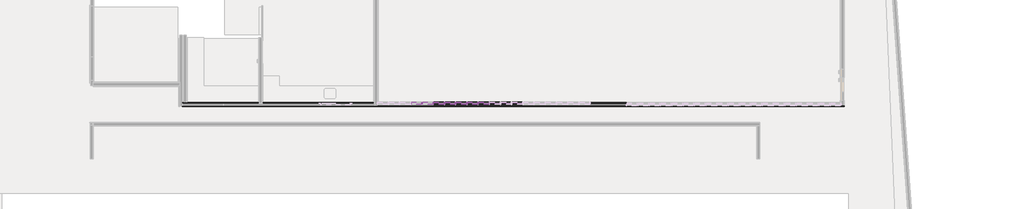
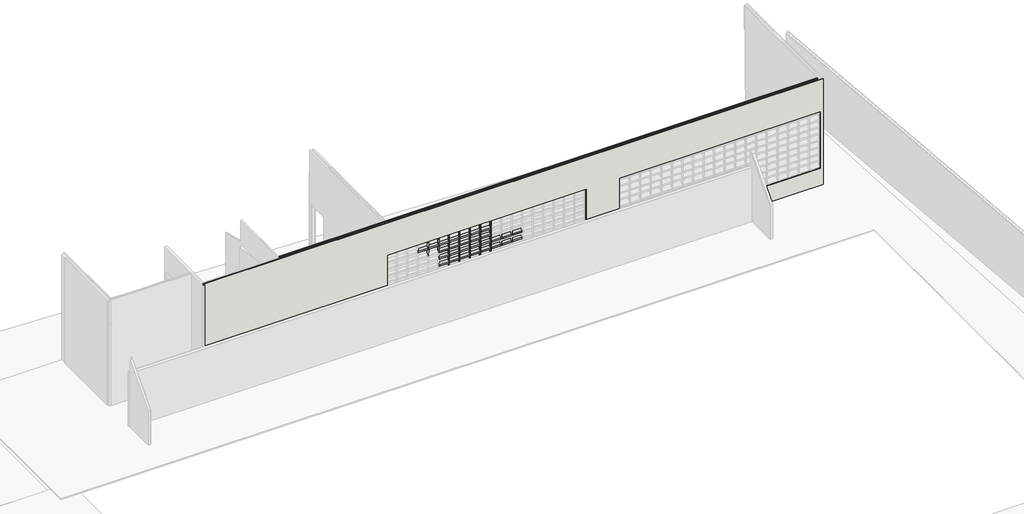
# One storey, part 22 of 28: 127 members, 2 walls.
"""IFC4 building model written with IfcOpenShell, lengths in millimetres."""

from ifc_helpers import new_model, si_unit, origin, place, context, project, spatial, faceted_brep, transform, mapped, element, save
from components import montante_retangular_02d07947, montante_retangular_70ba8f4d, montante_retangular_ace9eee9, montante_retangular_289212d8, montante_retangular_16e63d6c

model = new_model("IFC4")

# Units and contexts
model_context = context("Model", 3, world=origin())
ifc_project = project(units=[si_unit("LENGTHUNIT", "METRE", prefix="MILLI")], contexts=[model_context])

# Site, building, storey
site = spatial("IfcSite", under=ifc_project)
building = spatial("IfcBuilding", under=site)
storey = spatial("IfcBuildingStorey", under=building, Name="Térreo", Elevation=0.0)

# Members
placement = place(None, origin())
montante_retangular_shape = montante_retangular_02d07947(model_context)
element("IfcMember", 1, ObjectType="Montante retangular : FDE_MontanteVenezianaIndustrial_Intermediário_Ref50 (Alumínio Anodizado)", at=placement, inside=storey, context=model_context, shape_type="MappedRepresentation", body=[
    mapped(montante_retangular_shape, transform((-42832.6315788, 48589.0879102, 925.0), x_axis=(1.0, 0.0, 0.0), y_axis=(0.0, -1.0, 0.0), z_axis=(0.0, 0.0, -1.0))),
])
element("IfcMember", 2, ObjectType="Montante retangular : FDE_MontanteVenezianaIndustrial_Intermediário_Ref50 (Alumínio Anodizado)", at=placement, inside=storey, context=model_context, shape_type="MappedRepresentation", body=[
    mapped(montante_retangular_shape, transform((-42429.736842, 48589.0879102, 925.0), x_axis=(1.0, 0.0, 0.0), y_axis=(0.0, -1.0, 0.0), z_axis=(0.0, 0.0, -1.0))),
])
element("IfcMember", 3, ObjectType="Montante retangular : FDE_MontanteVenezianaIndustrial_Intermediário_Ref50 (Alumínio Anodizado)", at=placement, inside=storey, context=model_context, shape_type="MappedRepresentation", body=[
    mapped(montante_retangular_shape, transform((-42026.8421052, 48589.0879102, 925.0), x_axis=(1.0, 0.0, 0.0), y_axis=(0.0, -1.0, 0.0), z_axis=(0.0, 0.0, -1.0))),
])
element("IfcMember", 4, ObjectType="Montante retangular : FDE_MontanteVenezianaIndustrial_Intermediário_Ref50 (Alumínio Anodizado)", at=placement, inside=storey, context=model_context, shape_type="MappedRepresentation", body=[
    mapped(montante_retangular_shape, transform((-41623.9473684, 48589.0879102, 925.0), x_axis=(1.0, 0.0, 0.0), y_axis=(0.0, -1.0, 0.0), z_axis=(0.0, 0.0, -1.0))),
])
element("IfcMember", 5, ObjectType="Montante retangular : FDE_MontanteVenezianaIndustrial_Intermediário_Ref50 (Alumínio Anodizado)", at=placement, inside=storey, context=model_context, shape_type="MappedRepresentation", body=[
    mapped(montante_retangular_shape, transform((-41221.0526316, 48589.0879102, 925.0), x_axis=(1.0, 0.0, 0.0), y_axis=(0.0, -1.0, 0.0), z_axis=(0.0, 0.0, -1.0))),
])
montante_retangular_2_shape = montante_retangular_70ba8f4d(model_context)
element("IfcMember", 6, ObjectType="Montante retangular : FDE_MontanteVenezianaIndustrial_Intermediário_Ref50 (Alumínio Anodizado)", at=placement, inside=storey, context=model_context, shape_type="MappedRepresentation", body=[
    mapped(montante_retangular_2_shape, transform((-42832.6315788, 48589.0879102, 1174.0), x_axis=(1.0, 0.0, 0.0), y_axis=(0.0, -1.0, 0.0), z_axis=(0.0, 0.0, -1.0))),
])
element("IfcMember", 7, ObjectType="Montante retangular : FDE_MontanteVenezianaIndustrial_Intermediário_Ref50 (Alumínio Anodizado)", at=placement, inside=storey, context=model_context, shape_type="MappedRepresentation", body=[
    mapped(montante_retangular_2_shape, transform((-42429.736842, 48589.0879102, 1174.0), x_axis=(1.0, 0.0, 0.0), y_axis=(0.0, -1.0, 0.0), z_axis=(0.0, 0.0, -1.0))),
])
element("IfcMember", 8, ObjectType="Montante retangular : FDE_MontanteVenezianaIndustrial_Intermediário_Ref50 (Alumínio Anodizado)", at=placement, inside=storey, context=model_context, shape_type="MappedRepresentation", body=[
    mapped(montante_retangular_2_shape, transform((-42026.8421052, 48589.0879102, 1174.0), x_axis=(1.0, 0.0, 0.0), y_axis=(0.0, -1.0, 0.0), z_axis=(0.0, 0.0, -1.0))),
])
element("IfcMember", 9, ObjectType="Montante retangular : FDE_MontanteVenezianaIndustrial_Intermediário_Ref50 (Alumínio Anodizado)", at=placement, inside=storey, context=model_context, shape_type="MappedRepresentation", body=[
    mapped(montante_retangular_2_shape, transform((-41623.9473684, 48589.0879102, 1174.0), x_axis=(1.0, 0.0, 0.0), y_axis=(0.0, -1.0, 0.0), z_axis=(0.0, 0.0, -1.0))),
])
element("IfcMember", 10, ObjectType="Montante retangular : FDE_MontanteVenezianaIndustrial_Intermediário_Ref50 (Alumínio Anodizado)", at=placement, inside=storey, context=model_context, shape_type="MappedRepresentation", body=[
    mapped(montante_retangular_2_shape, transform((-41221.0526316, 48589.0879102, 1174.0), x_axis=(1.0, 0.0, 0.0), y_axis=(0.0, -1.0, 0.0), z_axis=(0.0, 0.0, -1.0))),
])
element("IfcMember", 11, ObjectType="Montante retangular : FDE_MontanteVenezianaIndustrial_Intermediário_Ref50 (Alumínio Anodizado)", at=placement, inside=storey, context=model_context, shape_type="MappedRepresentation", body=[
    mapped(montante_retangular_2_shape, transform((-42832.6315788, 48589.0879102, 1448.0), x_axis=(1.0, 0.0, 0.0), y_axis=(0.0, -1.0, 0.0), z_axis=(0.0, 0.0, -1.0))),
])
element("IfcMember", 12, ObjectType="Montante retangular : FDE_MontanteVenezianaIndustrial_Intermediário_Ref50 (Alumínio Anodizado)", at=placement, inside=storey, context=model_context, shape_type="MappedRepresentation", body=[
    mapped(montante_retangular_2_shape, transform((-42429.736842, 48589.0879102, 1448.0), x_axis=(1.0, 0.0, 0.0), y_axis=(0.0, -1.0, 0.0), z_axis=(0.0, 0.0, -1.0))),
])
element("IfcMember", 13, ObjectType="Montante retangular : FDE_MontanteVenezianaIndustrial_Intermediário_Ref50 (Alumínio Anodizado)", at=placement, inside=storey, context=model_context, shape_type="MappedRepresentation", body=[
    mapped(montante_retangular_2_shape, transform((-42026.8421052, 48589.0879102, 1448.0), x_axis=(1.0, 0.0, 0.0), y_axis=(0.0, -1.0, 0.0), z_axis=(0.0, 0.0, -1.0))),
])
element("IfcMember", 14, ObjectType="Montante retangular : FDE_MontanteVenezianaIndustrial_Intermediário_Ref50 (Alumínio Anodizado)", at=placement, inside=storey, context=model_context, shape_type="MappedRepresentation", body=[
    mapped(montante_retangular_2_shape, transform((-41623.9473684, 48589.0879102, 1448.0), x_axis=(1.0, 0.0, 0.0), y_axis=(0.0, -1.0, 0.0), z_axis=(0.0, 0.0, -1.0))),
])
element("IfcMember", 15, ObjectType="Montante retangular : FDE_MontanteVenezianaIndustrial_Intermediário_Ref50 (Alumínio Anodizado)", at=placement, inside=storey, context=model_context, shape_type="MappedRepresentation", body=[
    mapped(montante_retangular_2_shape, transform((-41221.0526316, 48589.0879102, 1448.0), x_axis=(1.0, 0.0, 0.0), y_axis=(0.0, -1.0, 0.0), z_axis=(0.0, 0.0, -1.0))),
])
element("IfcMember", 16, ObjectType="Montante retangular : FDE_MontanteVenezianaIndustrial_Intermediário_Ref50 (Alumínio Anodizado)", at=placement, inside=storey, context=model_context, shape_type="MappedRepresentation", body=[
    mapped(montante_retangular_2_shape, transform((-42832.6315788, 48589.0879102, 1722.0), x_axis=(1.0, 0.0, 0.0), y_axis=(0.0, -1.0, 0.0), z_axis=(0.0, 0.0, -1.0))),
])
element("IfcMember", 17, ObjectType="Montante retangular : FDE_MontanteVenezianaIndustrial_Intermediário_Ref50 (Alumínio Anodizado)", at=placement, inside=storey, context=model_context, shape_type="MappedRepresentation", body=[
    mapped(montante_retangular_2_shape, transform((-42429.736842, 48589.0879102, 1722.0), x_axis=(1.0, 0.0, 0.0), y_axis=(0.0, -1.0, 0.0), z_axis=(0.0, 0.0, -1.0))),
])
element("IfcMember", 18, ObjectType="Montante retangular : FDE_MontanteVenezianaIndustrial_Intermediário_Ref50 (Alumínio Anodizado)", at=placement, inside=storey, context=model_context, shape_type="MappedRepresentation", body=[
    mapped(montante_retangular_2_shape, transform((-42026.8421052, 48589.0879102, 1722.0), x_axis=(1.0, 0.0, 0.0), y_axis=(0.0, -1.0, 0.0), z_axis=(0.0, 0.0, -1.0))),
])
element("IfcMember", 19, ObjectType="Montante retangular : FDE_MontanteVenezianaIndustrial_Intermediário_Ref50 (Alumínio Anodizado)", at=placement, inside=storey, context=model_context, shape_type="MappedRepresentation", body=[
    mapped(montante_retangular_2_shape, transform((-41623.9473684, 48589.0879102, 1722.0), x_axis=(1.0, 0.0, 0.0), y_axis=(0.0, -1.0, 0.0), z_axis=(0.0, 0.0, -1.0))),
])
element("IfcMember", 20, ObjectType="Montante retangular : FDE_MontanteVenezianaIndustrial_Intermediário_Ref50 (Alumínio Anodizado)", at=placement, inside=storey, context=model_context, shape_type="MappedRepresentation", body=[
    mapped(montante_retangular_2_shape, transform((-41221.0526316, 48589.0879102, 1722.0), x_axis=(1.0, 0.0, 0.0), y_axis=(0.0, -1.0, 0.0), z_axis=(0.0, 0.0, -1.0))),
])
element("IfcMember", 21, ObjectType="Montante retangular : FDE_MontanteVenezianaIndustrial_Intermediário_Ref50 (Alumínio Anodizado)", at=placement, inside=storey, context=model_context, shape_type="MappedRepresentation", body=[
    mapped(montante_retangular_2_shape, transform((-42832.6315788, 48589.0879102, 1996.0), x_axis=(1.0, 0.0, 0.0), y_axis=(0.0, -1.0, 0.0), z_axis=(0.0, 0.0, -1.0))),
])
element("IfcMember", 22, ObjectType="Montante retangular : FDE_MontanteVenezianaIndustrial_Intermediário_Ref50 (Alumínio Anodizado)", at=placement, inside=storey, context=model_context, shape_type="MappedRepresentation", body=[
    mapped(montante_retangular_2_shape, transform((-42429.736842, 48589.0879102, 1996.0), x_axis=(1.0, 0.0, 0.0), y_axis=(0.0, -1.0, 0.0), z_axis=(0.0, 0.0, -1.0))),
])
element("IfcMember", 23, ObjectType="Montante retangular : FDE_MontanteVenezianaIndustrial_Intermediário_Ref50 (Alumínio Anodizado)", at=placement, inside=storey, context=model_context, shape_type="MappedRepresentation", body=[
    mapped(montante_retangular_2_shape, transform((-42026.8421052, 48589.0879102, 1996.0), x_axis=(1.0, 0.0, 0.0), y_axis=(0.0, -1.0, 0.0), z_axis=(0.0, 0.0, -1.0))),
])
element("IfcMember", 24, ObjectType="Montante retangular : FDE_MontanteVenezianaIndustrial_Intermediário_Ref50 (Alumínio Anodizado)", at=placement, inside=storey, context=model_context, shape_type="MappedRepresentation", body=[
    mapped(montante_retangular_2_shape, transform((-41623.9473684, 48589.0879102, 1996.0), x_axis=(1.0, 0.0, 0.0), y_axis=(0.0, -1.0, 0.0), z_axis=(0.0, 0.0, -1.0))),
])
element("IfcMember", 25, ObjectType="Montante retangular : FDE_MontanteVenezianaIndustrial_Intermediário_Ref50 (Alumínio Anodizado)", at=placement, inside=storey, context=model_context, shape_type="MappedRepresentation", body=[
    mapped(montante_retangular_2_shape, transform((-41221.0526316, 48589.0879102, 1996.0), x_axis=(1.0, 0.0, 0.0), y_axis=(0.0, -1.0, 0.0), z_axis=(0.0, 0.0, -1.0))),
])
element("IfcMember", 26, ObjectType="Montante retangular : FDE_MontanteVenezianaIndustrial_Intermediário_Ref50 (Alumínio Anodizado)", at=placement, inside=storey, context=model_context, shape_type="MappedRepresentation", body=[
    mapped(montante_retangular_2_shape, transform((-42832.6315788, 48589.0879102, 2270.0), x_axis=(1.0, 0.0, 0.0), y_axis=(0.0, -1.0, 0.0), z_axis=(0.0, 0.0, -1.0))),
])
element("IfcMember", 27, ObjectType="Montante retangular : FDE_MontanteVenezianaIndustrial_Intermediário_Ref50 (Alumínio Anodizado)", at=placement, inside=storey, context=model_context, shape_type="MappedRepresentation", body=[
    mapped(montante_retangular_2_shape, transform((-42429.736842, 48589.0879102, 2270.0), x_axis=(1.0, 0.0, 0.0), y_axis=(0.0, -1.0, 0.0), z_axis=(0.0, 0.0, -1.0))),
])
element("IfcMember", 28, ObjectType="Montante retangular : FDE_MontanteVenezianaIndustrial_Intermediário_Ref50 (Alumínio Anodizado)", at=placement, inside=storey, context=model_context, shape_type="MappedRepresentation", body=[
    mapped(montante_retangular_2_shape, transform((-42026.8421052, 48589.0879102, 2270.0), x_axis=(1.0, 0.0, 0.0), y_axis=(0.0, -1.0, 0.0), z_axis=(0.0, 0.0, -1.0))),
])
element("IfcMember", 29, ObjectType="Montante retangular : FDE_MontanteVenezianaIndustrial_Intermediário_Ref50 (Alumínio Anodizado)", at=placement, inside=storey, context=model_context, shape_type="MappedRepresentation", body=[
    mapped(montante_retangular_2_shape, transform((-41623.9473684, 48589.0879102, 2270.0), x_axis=(1.0, 0.0, 0.0), y_axis=(0.0, -1.0, 0.0), z_axis=(0.0, 0.0, -1.0))),
])
element("IfcMember", 30, ObjectType="Montante retangular : FDE_MontanteVenezianaIndustrial_Intermediário_Ref50 (Alumínio Anodizado)", at=placement, inside=storey, context=model_context, shape_type="MappedRepresentation", body=[
    mapped(montante_retangular_2_shape, transform((-41221.0526316, 48589.0879102, 2270.0), x_axis=(1.0, 0.0, 0.0), y_axis=(0.0, -1.0, 0.0), z_axis=(0.0, 0.0, -1.0))),
])
element("IfcMember", 31, ObjectType="Montante retangular : FDE_MontanteVenezianaIndustrial_Intermediário_Ref50 (Alumínio Anodizado)", at=placement, inside=storey, context=model_context, shape_type="MappedRepresentation", body=[
    mapped(montante_retangular_2_shape, transform((-43638.4210525, 48589.0879102, 2544.0), x_axis=(1.0, 0.0, 0.0), y_axis=(0.0, -1.0, 0.0), z_axis=(0.0, 0.0, -1.0))),
])
element("IfcMember", 32, ObjectType="Montante retangular : FDE_MontanteVenezianaIndustrial_Intermediário_Ref50 (Alumínio Anodizado)", at=placement, inside=storey, context=model_context, shape_type="MappedRepresentation", body=[
    mapped(montante_retangular_2_shape, transform((-43235.5263156, 48589.0879102, 2544.0), x_axis=(1.0, 0.0, 0.0), y_axis=(0.0, -1.0, 0.0), z_axis=(0.0, 0.0, -1.0))),
])
element("IfcMember", 33, ObjectType="Montante retangular : FDE_MontanteVenezianaIndustrial_Intermediário_Ref50 (Alumínio Anodizado)", at=placement, inside=storey, context=model_context, shape_type="MappedRepresentation", body=[
    mapped(montante_retangular_2_shape, transform((-42832.6315788, 48589.0879102, 2544.0), x_axis=(1.0, 0.0, 0.0), y_axis=(0.0, -1.0, 0.0), z_axis=(0.0, 0.0, -1.0))),
])
element("IfcMember", 34, ObjectType="Montante retangular : FDE_MontanteVenezianaIndustrial_Intermediário_Ref50 (Alumínio Anodizado)", at=placement, inside=storey, context=model_context, shape_type="MappedRepresentation", body=[
    mapped(montante_retangular_2_shape, transform((-42429.736842, 48589.0879102, 2544.0), x_axis=(1.0, 0.0, 0.0), y_axis=(0.0, -1.0, 0.0), z_axis=(0.0, 0.0, -1.0))),
])
element("IfcMember", 35, ObjectType="Montante retangular : FDE_MontanteVenezianaIndustrial_Intermediário_Ref50 (Alumínio Anodizado)", at=placement, inside=storey, context=model_context, shape_type="MappedRepresentation", body=[
    mapped(montante_retangular_2_shape, transform((-42026.8421052, 48589.0879102, 2544.0), x_axis=(1.0, 0.0, 0.0), y_axis=(0.0, -1.0, 0.0), z_axis=(0.0, 0.0, -1.0))),
])
element("IfcMember", 36, ObjectType="Montante retangular : FDE_MontanteVenezianaIndustrial_Intermediário_Ref50 (Alumínio Anodizado)", at=placement, inside=storey, context=model_context, shape_type="MappedRepresentation", body=[
    mapped(montante_retangular_2_shape, transform((-41623.9473684, 48589.0879102, 2544.0), x_axis=(1.0, 0.0, 0.0), y_axis=(0.0, -1.0, 0.0), z_axis=(0.0, 0.0, -1.0))),
])
element("IfcMember", 37, ObjectType="Montante retangular : FDE_MontanteVenezianaIndustrial_Intermediário_Ref50 (Alumínio Anodizado)", at=placement, inside=storey, context=model_context, shape_type="MappedRepresentation", body=[
    mapped(montante_retangular_2_shape, transform((-41221.0526316, 48589.0879102, 2544.0), x_axis=(1.0, 0.0, 0.0), y_axis=(0.0, -1.0, 0.0), z_axis=(0.0, 0.0, -1.0))),
])
element("IfcMember", 38, ObjectType="Montante retangular : FDE_MontanteVenezianaIndustrial_Intermediário_Ref50 (Alumínio Anodizado)", at=placement, inside=storey, context=model_context, shape_type="MappedRepresentation", body=[
    mapped(montante_retangular_2_shape, transform((-43638.4210525, 48589.0879102, 2818.0), x_axis=(1.0, 0.0, 0.0), y_axis=(0.0, -1.0, 0.0), z_axis=(0.0, 0.0, -1.0))),
])
element("IfcMember", 39, ObjectType="Montante retangular : FDE_MontanteVenezianaIndustrial_Intermediário_Ref50 (Alumínio Anodizado)", at=placement, inside=storey, context=model_context, shape_type="MappedRepresentation", body=[
    mapped(montante_retangular_2_shape, transform((-43235.5263156, 48589.0879102, 2818.0), x_axis=(1.0, 0.0, 0.0), y_axis=(0.0, -1.0, 0.0), z_axis=(0.0, 0.0, -1.0))),
])
element("IfcMember", 40, ObjectType="Montante retangular : FDE_MontanteVenezianaIndustrial_Intermediário_Ref50 (Alumínio Anodizado)", at=placement, inside=storey, context=model_context, shape_type="MappedRepresentation", body=[
    mapped(montante_retangular_2_shape, transform((-42832.6315788, 48589.0879102, 2818.0), x_axis=(1.0, 0.0, 0.0), y_axis=(0.0, -1.0, 0.0), z_axis=(0.0, 0.0, -1.0))),
])
element("IfcMember", 41, ObjectType="Montante retangular : FDE_MontanteVenezianaIndustrial_Intermediário_Ref50 (Alumínio Anodizado)", at=placement, inside=storey, context=model_context, shape_type="MappedRepresentation", body=[
    mapped(montante_retangular_2_shape, transform((-42429.736842, 48589.0879102, 2818.0), x_axis=(1.0, 0.0, 0.0), y_axis=(0.0, -1.0, 0.0), z_axis=(0.0, 0.0, -1.0))),
])
element("IfcMember", 42, ObjectType="Montante retangular : FDE_MontanteVenezianaIndustrial_Intermediário_Ref50 (Alumínio Anodizado)", at=placement, inside=storey, context=model_context, shape_type="MappedRepresentation", body=[
    mapped(montante_retangular_2_shape, transform((-42026.8421052, 48589.0879102, 2818.0), x_axis=(1.0, 0.0, 0.0), y_axis=(0.0, -1.0, 0.0), z_axis=(0.0, 0.0, -1.0))),
])
element("IfcMember", 43, ObjectType="Montante retangular : FDE_MontanteVenezianaIndustrial_Intermediário_Ref50 (Alumínio Anodizado)", at=placement, inside=storey, context=model_context, shape_type="MappedRepresentation", body=[
    mapped(montante_retangular_2_shape, transform((-41623.9473684, 48589.0879102, 2818.0), x_axis=(1.0, 0.0, 0.0), y_axis=(0.0, -1.0, 0.0), z_axis=(0.0, 0.0, -1.0))),
])
element("IfcMember", 44, ObjectType="Montante retangular : FDE_MontanteVenezianaIndustrial_Intermediário_Ref50 (Alumínio Anodizado)", at=placement, inside=storey, context=model_context, shape_type="MappedRepresentation", body=[
    mapped(montante_retangular_2_shape, transform((-41221.0526316, 48589.0879102, 2818.0), x_axis=(1.0, 0.0, 0.0), y_axis=(0.0, -1.0, 0.0), z_axis=(0.0, 0.0, -1.0))),
])
montante_retangular_3_shape = montante_retangular_ace9eee9(model_context)
element("IfcMember", 45, ObjectType="Montante retangular : FDE_MontanteVenezianaIndustrial_Intermediário_Ref50 (Alumínio Anodizado)", at=placement, inside=storey, context=model_context, shape_type="MappedRepresentation", body=[
    mapped(montante_retangular_3_shape, transform((-43638.4210525, 48589.0879102, 3092.0), x_axis=(1.0, 0.0, 0.0), y_axis=(0.0, -1.0, 0.0), z_axis=(0.0, 0.0, -1.0))),
])
element("IfcMember", 46, ObjectType="Montante retangular : FDE_MontanteVenezianaIndustrial_Intermediário_Ref50 (Alumínio Anodizado)", at=placement, inside=storey, context=model_context, shape_type="MappedRepresentation", body=[
    mapped(montante_retangular_3_shape, transform((-43235.5263156, 48589.0879102, 3092.0), x_axis=(1.0, 0.0, 0.0), y_axis=(0.0, -1.0, 0.0), z_axis=(0.0, 0.0, -1.0))),
])
element("IfcMember", 47, ObjectType="Montante retangular : FDE_MontanteVenezianaIndustrial_Intermediário_Ref50 (Alumínio Anodizado)", at=placement, inside=storey, context=model_context, shape_type="MappedRepresentation", body=[
    mapped(montante_retangular_3_shape, transform((-42832.6315788, 48589.0879102, 3092.0), x_axis=(1.0, 0.0, 0.0), y_axis=(0.0, -1.0, 0.0), z_axis=(0.0, 0.0, -1.0))),
])
element("IfcMember", 48, ObjectType="Montante retangular : FDE_MontanteVenezianaIndustrial_Intermediário_Ref50 (Alumínio Anodizado)", at=placement, inside=storey, context=model_context, shape_type="MappedRepresentation", body=[
    mapped(montante_retangular_3_shape, transform((-42429.736842, 48589.0879102, 3092.0), x_axis=(1.0, 0.0, 0.0), y_axis=(0.0, -1.0, 0.0), z_axis=(0.0, 0.0, -1.0))),
])
element("IfcMember", 49, ObjectType="Montante retangular : FDE_MontanteVenezianaIndustrial_Intermediário_Ref50 (Alumínio Anodizado)", at=placement, inside=storey, context=model_context, shape_type="MappedRepresentation", body=[
    mapped(montante_retangular_3_shape, transform((-42026.8421052, 48589.0879102, 3092.0), x_axis=(1.0, 0.0, 0.0), y_axis=(0.0, -1.0, 0.0), z_axis=(0.0, 0.0, -1.0))),
])
element("IfcMember", 50, ObjectType="Montante retangular : FDE_MontanteVenezianaIndustrial_Intermediário_Ref50 (Alumínio Anodizado)", at=placement, inside=storey, context=model_context, shape_type="MappedRepresentation", body=[
    mapped(montante_retangular_3_shape, transform((-41623.9473684, 48589.0879102, 3092.0), x_axis=(1.0, 0.0, 0.0), y_axis=(0.0, -1.0, 0.0), z_axis=(0.0, 0.0, -1.0))),
])
element("IfcMember", 51, ObjectType="Montante retangular : FDE_MontanteVenezianaIndustrial_Intermediário_Ref50 (Alumínio Anodizado)", at=placement, inside=storey, context=model_context, shape_type="MappedRepresentation", body=[
    mapped(montante_retangular_3_shape, transform((-41221.0526316, 48589.0879102, 3092.0), x_axis=(1.0, 0.0, 0.0), y_axis=(0.0, -1.0, 0.0), z_axis=(0.0, 0.0, -1.0))),
])
montante_retangular_4_shape = montante_retangular_289212d8(model_context)
element("IfcMember", 52, ObjectType="Montante retangular : FDE_MontanteVenezianaIndustrial_BordaOpção2_Ref50 (Alumínio Anodizado)", at=placement, inside=storey, context=model_context, shape_type="MappedRepresentation", body=[
    mapped(montante_retangular_4_shape, transform((-42832.6315788, 48589.0879102, 3200.0), x_axis=(0.0, 0.0, 1.0), y_axis=(0.0, -1.0, 0.0), z_axis=(1.0, 0.0, 0.0))),
])
element("IfcMember", 53, ObjectType="Montante retangular : FDE_MontanteVenezianaIndustrial_BordaOpção2_Ref50 (Alumínio Anodizado)", at=placement, inside=storey, context=model_context, shape_type="MappedRepresentation", body=[
    mapped(montante_retangular_4_shape, transform((-42429.736842, 48589.0879102, 3200.0), x_axis=(0.0, 0.0, 1.0), y_axis=(0.0, -1.0, 0.0), z_axis=(1.0, 0.0, 0.0))),
])
element("IfcMember", 54, ObjectType="Montante retangular : FDE_MontanteVenezianaIndustrial_BordaOpção2_Ref50 (Alumínio Anodizado)", at=placement, inside=storey, context=model_context, shape_type="MappedRepresentation", body=[
    mapped(montante_retangular_4_shape, transform((-42026.8421052, 48589.0879102, 3200.0), x_axis=(0.0, 0.0, 1.0), y_axis=(0.0, -1.0, 0.0), z_axis=(1.0, 0.0, 0.0))),
])
element("IfcMember", 55, ObjectType="Montante retangular : FDE_MontanteVenezianaIndustrial_BordaOpção2_Ref50 (Alumínio Anodizado)", at=placement, inside=storey, context=model_context, shape_type="MappedRepresentation", body=[
    mapped(montante_retangular_4_shape, transform((-41623.9473684, 48589.0879102, 3200.0), x_axis=(0.0, 0.0, 1.0), y_axis=(0.0, -1.0, 0.0), z_axis=(1.0, 0.0, 0.0))),
])
element("IfcMember", 56, ObjectType="Montante retangular : FDE_MontanteVenezianaIndustrial_BordaOpção2_Ref50 (Alumínio Anodizado)", at=placement, inside=storey, context=model_context, shape_type="MappedRepresentation", body=[
    mapped(montante_retangular_4_shape, transform((-41221.0526316, 48589.0879102, 3200.0), x_axis=(0.0, 0.0, 1.0), y_axis=(0.0, -1.0, 0.0), z_axis=(1.0, 0.0, 0.0))),
])
element("IfcMember", 57, ObjectType="Montante retangular : FDE_MontanteVenezianaIndustrial_BordaOpção2_Ref50 (Alumínio Anodizado)", at=placement, inside=storey, context=model_context, shape_type="MappedRepresentation", body=[
    mapped(montante_retangular_4_shape, transform((-40818.1578948, 48589.0879102, 3200.0), x_axis=(0.0, 0.0, 1.0), y_axis=(0.0, -1.0, 0.0), z_axis=(1.0, 0.0, 0.0))),
])
element("IfcMember", 58, ObjectType="Montante retangular : FDE_MontanteVenezianaIndustrial_BordaOpção2_Ref50 (Alumínio Anodizado)", at=placement, inside=storey, context=model_context, shape_type="MappedRepresentation", body=[
    mapped(montante_retangular_4_shape, transform((-40415.263158, 48589.0879102, 3200.0), x_axis=(0.0, 0.0, 1.0), y_axis=(0.0, -1.0, 0.0), z_axis=(1.0, 0.0, 0.0))),
])
element("IfcMember", 59, ObjectType="Montante retangular : FDE_MontanteVenezianaIndustrial_BordaOpção2_Ref50 (Alumínio Anodizado)", at=placement, inside=storey, context=model_context, shape_type="MappedRepresentation", body=[
    mapped(montante_retangular_4_shape, transform((-40012.3684212, 48589.0879102, 3200.0), x_axis=(0.0, 0.0, 1.0), y_axis=(0.0, -1.0, 0.0), z_axis=(1.0, 0.0, 0.0))),
])
element("IfcMember", 60, ObjectType="Montante retangular : FDE_MontanteVenezianaIndustrial_BordaOpção1_Ref50 (Alumínio Anodizado)", at=placement, inside=storey, context=model_context, shape_type="MappedRepresentation", body=[
    mapped(montante_retangular_4_shape, transform((-42832.6315788, 48589.0879102, 900.0), x_axis=(0.0, 0.0, -1.0), y_axis=(0.0, -1.0, 0.0), z_axis=(-1.0, 0.0, 0.0))),
])
element("IfcMember", 61, ObjectType="Montante retangular : FDE_MontanteVenezianaIndustrial_BordaOpção1_Ref50 (Alumínio Anodizado)", at=placement, inside=storey, context=model_context, shape_type="MappedRepresentation", body=[
    mapped(montante_retangular_4_shape, transform((-42429.736842, 48589.0879102, 900.0), x_axis=(0.0, 0.0, -1.0), y_axis=(0.0, -1.0, 0.0), z_axis=(-1.0, 0.0, 0.0))),
])
element("IfcMember", 62, ObjectType="Montante retangular : FDE_MontanteVenezianaIndustrial_BordaOpção1_Ref50 (Alumínio Anodizado)", at=placement, inside=storey, context=model_context, shape_type="MappedRepresentation", body=[
    mapped(montante_retangular_4_shape, transform((-42026.8421052, 48589.0879102, 900.0), x_axis=(0.0, 0.0, -1.0), y_axis=(0.0, -1.0, 0.0), z_axis=(-1.0, 0.0, 0.0))),
])
element("IfcMember", 63, ObjectType="Montante retangular : FDE_MontanteVenezianaIndustrial_BordaOpção1_Ref50 (Alumínio Anodizado)", at=placement, inside=storey, context=model_context, shape_type="MappedRepresentation", body=[
    mapped(montante_retangular_4_shape, transform((-41623.9473684, 48589.0879102, 900.0), x_axis=(0.0, 0.0, -1.0), y_axis=(0.0, -1.0, 0.0), z_axis=(-1.0, 0.0, 0.0))),
])
element("IfcMember", 64, ObjectType="Montante retangular : FDE_MontanteVenezianaIndustrial_BordaOpção1_Ref50 (Alumínio Anodizado)", at=placement, inside=storey, context=model_context, shape_type="MappedRepresentation", body=[
    mapped(montante_retangular_4_shape, transform((-41221.0526316, 48589.0879102, 900.0), x_axis=(0.0, 0.0, -1.0), y_axis=(0.0, -1.0, 0.0), z_axis=(-1.0, 0.0, 0.0))),
])
element("IfcMember", 65, ObjectType="Montante retangular : FDE_MontanteVenezianaIndustrial_BordaOpção1_Ref50 (Alumínio Anodizado)", at=placement, inside=storey, context=model_context, shape_type="MappedRepresentation", body=[
    mapped(montante_retangular_4_shape, transform((-40818.1578948, 48589.0879102, 900.0), x_axis=(0.0, 0.0, -1.0), y_axis=(0.0, -1.0, 0.0), z_axis=(-1.0, 0.0, 0.0))),
])
element("IfcMember", 66, ObjectType="Montante retangular : FDE_MontanteVenezianaIndustrial_BordaOpção1_Ref50 (Alumínio Anodizado)", at=placement, inside=storey, context=model_context, shape_type="MappedRepresentation", body=[
    mapped(montante_retangular_4_shape, transform((-40415.263158, 48589.0879102, 900.0), x_axis=(0.0, 0.0, -1.0), y_axis=(0.0, -1.0, 0.0), z_axis=(-1.0, 0.0, 0.0))),
])
element("IfcMember", 67, ObjectType="Montante retangular : FDE_MontanteVenezianaIndustrial_BordaOpção1_Ref50 (Alumínio Anodizado)", at=placement, inside=storey, context=model_context, shape_type="MappedRepresentation", body=[
    mapped(montante_retangular_4_shape, transform((-40012.3684212, 48589.0879102, 900.0), x_axis=(0.0, 0.0, -1.0), y_axis=(0.0, -1.0, 0.0), z_axis=(-1.0, 0.0, 0.0))),
])
montante_retangular_5_shape = montante_retangular_16e63d6c(model_context)
element("IfcMember", 68, ObjectType="Montante retangular : FDE_AletaVenezianaIndustrial_Ref100 (Alumínio Anodizado)", at=placement, inside=storey, context=model_context, shape_type="MappedRepresentation", body=[
    mapped(montante_retangular_5_shape, transform((-42857.6315788, 48589.0879102, 1174.0), x_axis=(0.0, 0.0, 1.0), y_axis=(0.0, -1.0, 0.0), z_axis=(1.0, 0.0, 0.0))),
])
element("IfcMember", 69, ObjectType="Montante retangular : FDE_AletaVenezianaIndustrial_Ref100 (Alumínio Anodizado)", at=placement, inside=storey, context=model_context, shape_type="MappedRepresentation", body=[
    mapped(montante_retangular_5_shape, transform((-42454.736842, 48589.0879102, 1174.0), x_axis=(0.0, 0.0, 1.0), y_axis=(0.0, -1.0, 0.0), z_axis=(1.0, 0.0, 0.0))),
])
element("IfcMember", 70, ObjectType="Montante retangular : FDE_AletaVenezianaIndustrial_Ref100 (Alumínio Anodizado)", at=placement, inside=storey, context=model_context, shape_type="MappedRepresentation", body=[
    mapped(montante_retangular_5_shape, transform((-42051.8421052, 48589.0879102, 1174.0), x_axis=(0.0, 0.0, 1.0), y_axis=(0.0, -1.0, 0.0), z_axis=(1.0, 0.0, 0.0))),
])
element("IfcMember", 71, ObjectType="Montante retangular : FDE_AletaVenezianaIndustrial_Ref100 (Alumínio Anodizado)", at=placement, inside=storey, context=model_context, shape_type="MappedRepresentation", body=[
    mapped(montante_retangular_5_shape, transform((-41648.9473684, 48589.0879102, 1174.0), x_axis=(0.0, 0.0, 1.0), y_axis=(0.0, -1.0, 0.0), z_axis=(1.0, 0.0, 0.0))),
])
element("IfcMember", 72, ObjectType="Montante retangular : FDE_AletaVenezianaIndustrial_Ref100 (Alumínio Anodizado)", at=placement, inside=storey, context=model_context, shape_type="MappedRepresentation", body=[
    mapped(montante_retangular_5_shape, transform((-41246.0526316, 48589.0879102, 1174.0), x_axis=(0.0, 0.0, 1.0), y_axis=(0.0, -1.0, 0.0), z_axis=(1.0, 0.0, 0.0))),
])
element("IfcMember", 73, ObjectType="Montante retangular : FDE_AletaVenezianaIndustrial_Ref100 (Alumínio Anodizado)", at=placement, inside=storey, context=model_context, shape_type="MappedRepresentation", body=[
    mapped(montante_retangular_5_shape, transform((-40843.1578948, 48589.0879102, 1174.0), x_axis=(0.0, 0.0, 1.0), y_axis=(0.0, -1.0, 0.0), z_axis=(1.0, 0.0, 0.0))),
])
element("IfcMember", 74, ObjectType="Montante retangular : FDE_AletaVenezianaIndustrial_Ref100 (Alumínio Anodizado)", at=placement, inside=storey, context=model_context, shape_type="MappedRepresentation", body=[
    mapped(montante_retangular_5_shape, transform((-40440.263158, 48589.0879102, 1174.0), x_axis=(0.0, 0.0, 1.0), y_axis=(0.0, -1.0, 0.0), z_axis=(1.0, 0.0, 0.0))),
])
element("IfcMember", 75, ObjectType="Montante retangular : FDE_AletaVenezianaIndustrial_Ref100 (Alumínio Anodizado)", at=placement, inside=storey, context=model_context, shape_type="MappedRepresentation", body=[
    mapped(montante_retangular_5_shape, transform((-40037.3684212, 48589.0879102, 1174.0), x_axis=(0.0, 0.0, 1.0), y_axis=(0.0, -1.0, 0.0), z_axis=(1.0, 0.0, 0.0))),
])
element("IfcMember", 76, ObjectType="Montante retangular : FDE_AletaVenezianaIndustrial_Ref100 (Alumínio Anodizado)", at=placement, inside=storey, context=model_context, shape_type="MappedRepresentation", body=[
    mapped(montante_retangular_5_shape, transform((-42857.6315788, 48589.0879102, 1448.0), x_axis=(0.0, 0.0, 1.0), y_axis=(0.0, -1.0, 0.0), z_axis=(1.0, 0.0, 0.0))),
])
element("IfcMember", 77, ObjectType="Montante retangular : FDE_AletaVenezianaIndustrial_Ref100 (Alumínio Anodizado)", at=placement, inside=storey, context=model_context, shape_type="MappedRepresentation", body=[
    mapped(montante_retangular_5_shape, transform((-42454.736842, 48589.0879102, 1448.0), x_axis=(0.0, 0.0, 1.0), y_axis=(0.0, -1.0, 0.0), z_axis=(1.0, 0.0, 0.0))),
])
element("IfcMember", 78, ObjectType="Montante retangular : FDE_AletaVenezianaIndustrial_Ref100 (Alumínio Anodizado)", at=placement, inside=storey, context=model_context, shape_type="MappedRepresentation", body=[
    mapped(montante_retangular_5_shape, transform((-42051.8421052, 48589.0879102, 1448.0), x_axis=(0.0, 0.0, 1.0), y_axis=(0.0, -1.0, 0.0), z_axis=(1.0, 0.0, 0.0))),
])
element("IfcMember", 79, ObjectType="Montante retangular : FDE_AletaVenezianaIndustrial_Ref100 (Alumínio Anodizado)", at=placement, inside=storey, context=model_context, shape_type="MappedRepresentation", body=[
    mapped(montante_retangular_5_shape, transform((-41648.9473684, 48589.0879102, 1448.0), x_axis=(0.0, 0.0, 1.0), y_axis=(0.0, -1.0, 0.0), z_axis=(1.0, 0.0, 0.0))),
])
element("IfcMember", 80, ObjectType="Montante retangular : FDE_AletaVenezianaIndustrial_Ref100 (Alumínio Anodizado)", at=placement, inside=storey, context=model_context, shape_type="MappedRepresentation", body=[
    mapped(montante_retangular_5_shape, transform((-41246.0526316, 48589.0879102, 1448.0), x_axis=(0.0, 0.0, 1.0), y_axis=(0.0, -1.0, 0.0), z_axis=(1.0, 0.0, 0.0))),
])
element("IfcMember", 81, ObjectType="Montante retangular : FDE_AletaVenezianaIndustrial_Ref100 (Alumínio Anodizado)", at=placement, inside=storey, context=model_context, shape_type="MappedRepresentation", body=[
    mapped(montante_retangular_5_shape, transform((-40843.1578948, 48589.0879102, 1448.0), x_axis=(0.0, 0.0, 1.0), y_axis=(0.0, -1.0, 0.0), z_axis=(1.0, 0.0, 0.0))),
])
element("IfcMember", 82, ObjectType="Montante retangular : FDE_AletaVenezianaIndustrial_Ref100 (Alumínio Anodizado)", at=placement, inside=storey, context=model_context, shape_type="MappedRepresentation", body=[
    mapped(montante_retangular_5_shape, transform((-40440.263158, 48589.0879102, 1448.0), x_axis=(0.0, 0.0, 1.0), y_axis=(0.0, -1.0, 0.0), z_axis=(1.0, 0.0, 0.0))),
])
element("IfcMember", 83, ObjectType="Montante retangular : FDE_AletaVenezianaIndustrial_Ref100 (Alumínio Anodizado)", at=placement, inside=storey, context=model_context, shape_type="MappedRepresentation", body=[
    mapped(montante_retangular_5_shape, transform((-40037.3684212, 48589.0879102, 1448.0), x_axis=(0.0, 0.0, 1.0), y_axis=(0.0, -1.0, 0.0), z_axis=(1.0, 0.0, 0.0))),
])
element("IfcMember", 84, ObjectType="Montante retangular : FDE_AletaVenezianaIndustrial_Ref100 (Alumínio Anodizado)", at=placement, inside=storey, context=model_context, shape_type="MappedRepresentation", body=[
    mapped(montante_retangular_5_shape, transform((-42857.6315788, 48589.0879102, 1722.0), x_axis=(0.0, 0.0, 1.0), y_axis=(0.0, -1.0, 0.0), z_axis=(1.0, 0.0, 0.0))),
])
element("IfcMember", 85, ObjectType="Montante retangular : FDE_AletaVenezianaIndustrial_Ref100 (Alumínio Anodizado)", at=placement, inside=storey, context=model_context, shape_type="MappedRepresentation", body=[
    mapped(montante_retangular_5_shape, transform((-42454.736842, 48589.0879102, 1722.0), x_axis=(0.0, 0.0, 1.0), y_axis=(0.0, -1.0, 0.0), z_axis=(1.0, 0.0, 0.0))),
])
element("IfcMember", 86, ObjectType="Montante retangular : FDE_AletaVenezianaIndustrial_Ref100 (Alumínio Anodizado)", at=placement, inside=storey, context=model_context, shape_type="MappedRepresentation", body=[
    mapped(montante_retangular_5_shape, transform((-42051.8421052, 48589.0879102, 1722.0), x_axis=(0.0, 0.0, 1.0), y_axis=(0.0, -1.0, 0.0), z_axis=(1.0, 0.0, 0.0))),
])
element("IfcMember", 87, ObjectType="Montante retangular : FDE_AletaVenezianaIndustrial_Ref100 (Alumínio Anodizado)", at=placement, inside=storey, context=model_context, shape_type="MappedRepresentation", body=[
    mapped(montante_retangular_5_shape, transform((-41648.9473684, 48589.0879102, 1722.0), x_axis=(0.0, 0.0, 1.0), y_axis=(0.0, -1.0, 0.0), z_axis=(1.0, 0.0, 0.0))),
])
element("IfcMember", 88, ObjectType="Montante retangular : FDE_AletaVenezianaIndustrial_Ref100 (Alumínio Anodizado)", at=placement, inside=storey, context=model_context, shape_type="MappedRepresentation", body=[
    mapped(montante_retangular_5_shape, transform((-41246.0526316, 48589.0879102, 1722.0), x_axis=(0.0, 0.0, 1.0), y_axis=(0.0, -1.0, 0.0), z_axis=(1.0, 0.0, 0.0))),
])
element("IfcMember", 89, ObjectType="Montante retangular : FDE_AletaVenezianaIndustrial_Ref100 (Alumínio Anodizado)", at=placement, inside=storey, context=model_context, shape_type="MappedRepresentation", body=[
    mapped(montante_retangular_5_shape, transform((-40843.1578948, 48589.0879102, 1722.0), x_axis=(0.0, 0.0, 1.0), y_axis=(0.0, -1.0, 0.0), z_axis=(1.0, 0.0, 0.0))),
])
element("IfcMember", 90, ObjectType="Montante retangular : FDE_AletaVenezianaIndustrial_Ref100 (Alumínio Anodizado)", at=placement, inside=storey, context=model_context, shape_type="MappedRepresentation", body=[
    mapped(montante_retangular_5_shape, transform((-40440.263158, 48589.0879102, 1722.0), x_axis=(0.0, 0.0, 1.0), y_axis=(0.0, -1.0, 0.0), z_axis=(1.0, 0.0, 0.0))),
])
element("IfcMember", 91, ObjectType="Montante retangular : FDE_AletaVenezianaIndustrial_Ref100 (Alumínio Anodizado)", at=placement, inside=storey, context=model_context, shape_type="MappedRepresentation", body=[
    mapped(montante_retangular_5_shape, transform((-40037.3684212, 48589.0879102, 1722.0), x_axis=(0.0, 0.0, 1.0), y_axis=(0.0, -1.0, 0.0), z_axis=(1.0, 0.0, 0.0))),
])
element("IfcMember", 92, ObjectType="Montante retangular : FDE_AletaVenezianaIndustrial_Ref100 (Alumínio Anodizado)", at=placement, inside=storey, context=model_context, shape_type="MappedRepresentation", body=[
    mapped(montante_retangular_5_shape, transform((-42857.6315788, 48589.0879102, 1996.0), x_axis=(0.0, 0.0, 1.0), y_axis=(0.0, -1.0, 0.0), z_axis=(1.0, 0.0, 0.0))),
])
element("IfcMember", 93, ObjectType="Montante retangular : FDE_AletaVenezianaIndustrial_Ref100 (Alumínio Anodizado)", at=placement, inside=storey, context=model_context, shape_type="MappedRepresentation", body=[
    mapped(montante_retangular_5_shape, transform((-42454.736842, 48589.0879102, 1996.0), x_axis=(0.0, 0.0, 1.0), y_axis=(0.0, -1.0, 0.0), z_axis=(1.0, 0.0, 0.0))),
])
element("IfcMember", 94, ObjectType="Montante retangular : FDE_AletaVenezianaIndustrial_Ref100 (Alumínio Anodizado)", at=placement, inside=storey, context=model_context, shape_type="MappedRepresentation", body=[
    mapped(montante_retangular_5_shape, transform((-42051.8421052, 48589.0879102, 1996.0), x_axis=(0.0, 0.0, 1.0), y_axis=(0.0, -1.0, 0.0), z_axis=(1.0, 0.0, 0.0))),
])
element("IfcMember", 95, ObjectType="Montante retangular : FDE_AletaVenezianaIndustrial_Ref100 (Alumínio Anodizado)", at=placement, inside=storey, context=model_context, shape_type="MappedRepresentation", body=[
    mapped(montante_retangular_5_shape, transform((-41648.9473684, 48589.0879102, 1996.0), x_axis=(0.0, 0.0, 1.0), y_axis=(0.0, -1.0, 0.0), z_axis=(1.0, 0.0, 0.0))),
])
element("IfcMember", 96, ObjectType="Montante retangular : FDE_AletaVenezianaIndustrial_Ref100 (Alumínio Anodizado)", at=placement, inside=storey, context=model_context, shape_type="MappedRepresentation", body=[
    mapped(montante_retangular_5_shape, transform((-41246.0526316, 48589.0879102, 1996.0), x_axis=(0.0, 0.0, 1.0), y_axis=(0.0, -1.0, 0.0), z_axis=(1.0, 0.0, 0.0))),
])
element("IfcMember", 97, ObjectType="Montante retangular : FDE_AletaVenezianaIndustrial_Ref100 (Alumínio Anodizado)", at=placement, inside=storey, context=model_context, shape_type="MappedRepresentation", body=[
    mapped(montante_retangular_5_shape, transform((-40843.1578948, 48589.0879102, 1996.0), x_axis=(0.0, 0.0, 1.0), y_axis=(0.0, -1.0, 0.0), z_axis=(1.0, 0.0, 0.0))),
])
element("IfcMember", 98, ObjectType="Montante retangular : FDE_AletaVenezianaIndustrial_Ref100 (Alumínio Anodizado)", at=placement, inside=storey, context=model_context, shape_type="MappedRepresentation", body=[
    mapped(montante_retangular_5_shape, transform((-40440.263158, 48589.0879102, 1996.0), x_axis=(0.0, 0.0, 1.0), y_axis=(0.0, -1.0, 0.0), z_axis=(1.0, 0.0, 0.0))),
])
element("IfcMember", 99, ObjectType="Montante retangular : FDE_AletaVenezianaIndustrial_Ref100 (Alumínio Anodizado)", at=placement, inside=storey, context=model_context, shape_type="MappedRepresentation", body=[
    mapped(montante_retangular_5_shape, transform((-40037.3684212, 48589.0879102, 1996.0), x_axis=(0.0, 0.0, 1.0), y_axis=(0.0, -1.0, 0.0), z_axis=(1.0, 0.0, 0.0))),
])
element("IfcMember", 100, ObjectType="Montante retangular : FDE_AletaVenezianaIndustrial_Ref100 (Alumínio Anodizado)", at=placement, inside=storey, context=model_context, shape_type="MappedRepresentation", body=[
    mapped(montante_retangular_5_shape, transform((-42857.6315788, 48589.0879102, 2270.0), x_axis=(0.0, 0.0, 1.0), y_axis=(0.0, -1.0, 0.0), z_axis=(1.0, 0.0, 0.0))),
])
element("IfcMember", 101, ObjectType="Montante retangular : FDE_AletaVenezianaIndustrial_Ref100 (Alumínio Anodizado)", at=placement, inside=storey, context=model_context, shape_type="MappedRepresentation", body=[
    mapped(montante_retangular_5_shape, transform((-42454.736842, 48589.0879102, 2270.0), x_axis=(0.0, 0.0, 1.0), y_axis=(0.0, -1.0, 0.0), z_axis=(1.0, 0.0, 0.0))),
])
element("IfcMember", 102, ObjectType="Montante retangular : FDE_AletaVenezianaIndustrial_Ref100 (Alumínio Anodizado)", at=placement, inside=storey, context=model_context, shape_type="MappedRepresentation", body=[
    mapped(montante_retangular_5_shape, transform((-42051.8421052, 48589.0879102, 2270.0), x_axis=(0.0, 0.0, 1.0), y_axis=(0.0, -1.0, 0.0), z_axis=(1.0, 0.0, 0.0))),
])
element("IfcMember", 103, ObjectType="Montante retangular : FDE_AletaVenezianaIndustrial_Ref100 (Alumínio Anodizado)", at=placement, inside=storey, context=model_context, shape_type="MappedRepresentation", body=[
    mapped(montante_retangular_5_shape, transform((-41648.9473684, 48589.0879102, 2270.0), x_axis=(0.0, 0.0, 1.0), y_axis=(0.0, -1.0, 0.0), z_axis=(1.0, 0.0, 0.0))),
])
element("IfcMember", 104, ObjectType="Montante retangular : FDE_AletaVenezianaIndustrial_Ref100 (Alumínio Anodizado)", at=placement, inside=storey, context=model_context, shape_type="MappedRepresentation", body=[
    mapped(montante_retangular_5_shape, transform((-41246.0526316, 48589.0879102, 2270.0), x_axis=(0.0, 0.0, 1.0), y_axis=(0.0, -1.0, 0.0), z_axis=(1.0, 0.0, 0.0))),
])
element("IfcMember", 105, ObjectType="Montante retangular : FDE_AletaVenezianaIndustrial_Ref100 (Alumínio Anodizado)", at=placement, inside=storey, context=model_context, shape_type="MappedRepresentation", body=[
    mapped(montante_retangular_5_shape, transform((-40843.1578948, 48589.0879102, 2270.0), x_axis=(0.0, 0.0, 1.0), y_axis=(0.0, -1.0, 0.0), z_axis=(1.0, 0.0, 0.0))),
])
element("IfcMember", 106, ObjectType="Montante retangular : FDE_AletaVenezianaIndustrial_Ref100 (Alumínio Anodizado)", at=placement, inside=storey, context=model_context, shape_type="MappedRepresentation", body=[
    mapped(montante_retangular_5_shape, transform((-40440.263158, 48589.0879102, 2270.0), x_axis=(0.0, 0.0, 1.0), y_axis=(0.0, -1.0, 0.0), z_axis=(1.0, 0.0, 0.0))),
])
element("IfcMember", 107, ObjectType="Montante retangular : FDE_AletaVenezianaIndustrial_Ref100 (Alumínio Anodizado)", at=placement, inside=storey, context=model_context, shape_type="MappedRepresentation", body=[
    mapped(montante_retangular_5_shape, transform((-40037.3684212, 48589.0879102, 2270.0), x_axis=(0.0, 0.0, 1.0), y_axis=(0.0, -1.0, 0.0), z_axis=(1.0, 0.0, 0.0))),
])
element("IfcMember", 108, ObjectType="Montante retangular : FDE_AletaVenezianaIndustrial_Ref100 (Alumínio Anodizado)", at=placement, inside=storey, context=model_context, shape_type="MappedRepresentation", body=[
    mapped(montante_retangular_5_shape, transform((-42857.6315788, 48589.0879102, 2544.0), x_axis=(0.0, 0.0, 1.0), y_axis=(0.0, -1.0, 0.0), z_axis=(1.0, 0.0, 0.0))),
])
element("IfcMember", 109, ObjectType="Montante retangular : FDE_AletaVenezianaIndustrial_Ref100 (Alumínio Anodizado)", at=placement, inside=storey, context=model_context, shape_type="MappedRepresentation", body=[
    mapped(montante_retangular_5_shape, transform((-42454.736842, 48589.0879102, 2544.0), x_axis=(0.0, 0.0, 1.0), y_axis=(0.0, -1.0, 0.0), z_axis=(1.0, 0.0, 0.0))),
])
element("IfcMember", 110, ObjectType="Montante retangular : FDE_AletaVenezianaIndustrial_Ref100 (Alumínio Anodizado)", at=placement, inside=storey, context=model_context, shape_type="MappedRepresentation", body=[
    mapped(montante_retangular_5_shape, transform((-42051.8421052, 48589.0879102, 2544.0), x_axis=(0.0, 0.0, 1.0), y_axis=(0.0, -1.0, 0.0), z_axis=(1.0, 0.0, 0.0))),
])
element("IfcMember", 111, ObjectType="Montante retangular : FDE_AletaVenezianaIndustrial_Ref100 (Alumínio Anodizado)", at=placement, inside=storey, context=model_context, shape_type="MappedRepresentation", body=[
    mapped(montante_retangular_5_shape, transform((-41648.9473684, 48589.0879102, 2544.0), x_axis=(0.0, 0.0, 1.0), y_axis=(0.0, -1.0, 0.0), z_axis=(1.0, 0.0, 0.0))),
])
element("IfcMember", 112, ObjectType="Montante retangular : FDE_AletaVenezianaIndustrial_Ref100 (Alumínio Anodizado)", at=placement, inside=storey, context=model_context, shape_type="MappedRepresentation", body=[
    mapped(montante_retangular_5_shape, transform((-41246.0526316, 48589.0879102, 2544.0), x_axis=(0.0, 0.0, 1.0), y_axis=(0.0, -1.0, 0.0), z_axis=(1.0, 0.0, 0.0))),
])
element("IfcMember", 113, ObjectType="Montante retangular : FDE_AletaVenezianaIndustrial_Ref100 (Alumínio Anodizado)", at=placement, inside=storey, context=model_context, shape_type="MappedRepresentation", body=[
    mapped(montante_retangular_5_shape, transform((-40843.1578948, 48589.0879102, 2544.0), x_axis=(0.0, 0.0, 1.0), y_axis=(0.0, -1.0, 0.0), z_axis=(1.0, 0.0, 0.0))),
])
element("IfcMember", 114, ObjectType="Montante retangular : FDE_AletaVenezianaIndustrial_Ref100 (Alumínio Anodizado)", at=placement, inside=storey, context=model_context, shape_type="MappedRepresentation", body=[
    mapped(montante_retangular_5_shape, transform((-40440.263158, 48589.0879102, 2544.0), x_axis=(0.0, 0.0, 1.0), y_axis=(0.0, -1.0, 0.0), z_axis=(1.0, 0.0, 0.0))),
])
element("IfcMember", 115, ObjectType="Montante retangular : FDE_AletaVenezianaIndustrial_Ref100 (Alumínio Anodizado)", at=placement, inside=storey, context=model_context, shape_type="MappedRepresentation", body=[
    mapped(montante_retangular_5_shape, transform((-40037.3684212, 48589.0879102, 2544.0), x_axis=(0.0, 0.0, 1.0), y_axis=(0.0, -1.0, 0.0), z_axis=(1.0, 0.0, 0.0))),
])
element("IfcMember", 116, ObjectType="Montante retangular : FDE_AletaVenezianaIndustrial_Ref100 (Alumínio Anodizado)", at=placement, inside=storey, context=model_context, shape_type="MappedRepresentation", body=[
    mapped(montante_retangular_5_shape, transform((-42857.6315788, 48589.0879102, 2818.0), x_axis=(0.0, 0.0, 1.0), y_axis=(0.0, -1.0, 0.0), z_axis=(1.0, 0.0, 0.0))),
])
element("IfcMember", 117, ObjectType="Montante retangular : FDE_AletaVenezianaIndustrial_Ref100 (Alumínio Anodizado)", at=placement, inside=storey, context=model_context, shape_type="MappedRepresentation", body=[
    mapped(montante_retangular_5_shape, transform((-42454.736842, 48589.0879102, 2818.0), x_axis=(0.0, 0.0, 1.0), y_axis=(0.0, -1.0, 0.0), z_axis=(1.0, 0.0, 0.0))),
])
element("IfcMember", 118, ObjectType="Montante retangular : FDE_AletaVenezianaIndustrial_Ref100 (Alumínio Anodizado)", at=placement, inside=storey, context=model_context, shape_type="MappedRepresentation", body=[
    mapped(montante_retangular_5_shape, transform((-42051.8421052, 48589.0879102, 2818.0), x_axis=(0.0, 0.0, 1.0), y_axis=(0.0, -1.0, 0.0), z_axis=(1.0, 0.0, 0.0))),
])
element("IfcMember", 119, ObjectType="Montante retangular : FDE_AletaVenezianaIndustrial_Ref100 (Alumínio Anodizado)", at=placement, inside=storey, context=model_context, shape_type="MappedRepresentation", body=[
    mapped(montante_retangular_5_shape, transform((-41648.9473684, 48589.0879102, 2818.0), x_axis=(0.0, 0.0, 1.0), y_axis=(0.0, -1.0, 0.0), z_axis=(1.0, 0.0, 0.0))),
])
element("IfcMember", 120, ObjectType="Montante retangular : FDE_AletaVenezianaIndustrial_Ref100 (Alumínio Anodizado)", at=placement, inside=storey, context=model_context, shape_type="MappedRepresentation", body=[
    mapped(montante_retangular_5_shape, transform((-41246.0526316, 48589.0879102, 2818.0), x_axis=(0.0, 0.0, 1.0), y_axis=(0.0, -1.0, 0.0), z_axis=(1.0, 0.0, 0.0))),
])
element("IfcMember", 121, ObjectType="Montante retangular : FDE_AletaVenezianaIndustrial_Ref100 (Alumínio Anodizado)", at=placement, inside=storey, context=model_context, shape_type="MappedRepresentation", body=[
    mapped(montante_retangular_5_shape, transform((-43663.4210525, 48589.0879102, 3092.0), x_axis=(0.0, 0.0, 1.0), y_axis=(0.0, -1.0, 0.0), z_axis=(1.0, 0.0, 0.0))),
])
element("IfcMember", 122, ObjectType="Montante retangular : FDE_AletaVenezianaIndustrial_Ref100 (Alumínio Anodizado)", at=placement, inside=storey, context=model_context, shape_type="MappedRepresentation", body=[
    mapped(montante_retangular_5_shape, transform((-43260.5263156, 48589.0879102, 3092.0), x_axis=(0.0, 0.0, 1.0), y_axis=(0.0, -1.0, 0.0), z_axis=(1.0, 0.0, 0.0))),
])
element("IfcMember", 123, ObjectType="Montante retangular : FDE_AletaVenezianaIndustrial_Ref100 (Alumínio Anodizado)", at=placement, inside=storey, context=model_context, shape_type="MappedRepresentation", body=[
    mapped(montante_retangular_5_shape, transform((-42857.6315788, 48589.0879102, 3092.0), x_axis=(0.0, 0.0, 1.0), y_axis=(0.0, -1.0, 0.0), z_axis=(1.0, 0.0, 0.0))),
])
element("IfcMember", 124, ObjectType="Montante retangular : FDE_AletaVenezianaIndustrial_Ref100 (Alumínio Anodizado)", at=placement, inside=storey, context=model_context, shape_type="MappedRepresentation", body=[
    mapped(montante_retangular_5_shape, transform((-42454.736842, 48589.0879102, 3092.0), x_axis=(0.0, 0.0, 1.0), y_axis=(0.0, -1.0, 0.0), z_axis=(1.0, 0.0, 0.0))),
])
element("IfcMember", 125, ObjectType="Montante retangular : FDE_AletaVenezianaIndustrial_Ref100 (Alumínio Anodizado)", at=placement, inside=storey, context=model_context, shape_type="MappedRepresentation", body=[
    mapped(montante_retangular_5_shape, transform((-42051.8421052, 48589.0879102, 3092.0), x_axis=(0.0, 0.0, 1.0), y_axis=(0.0, -1.0, 0.0), z_axis=(1.0, 0.0, 0.0))),
])
element("IfcMember", 126, ObjectType="Montante retangular : FDE_AletaVenezianaIndustrial_Ref100 (Alumínio Anodizado)", at=placement, inside=storey, context=model_context, shape_type="MappedRepresentation", body=[
    mapped(montante_retangular_5_shape, transform((-41648.9473684, 48589.0879102, 3092.0), x_axis=(0.0, 0.0, 1.0), y_axis=(0.0, -1.0, 0.0), z_axis=(1.0, 0.0, 0.0))),
])
element("IfcMember", 127, ObjectType="Montante retangular : FDE_AletaVenezianaIndustrial_Ref100 (Alumínio Anodizado)", at=placement, inside=storey, context=model_context, shape_type="MappedRepresentation", body=[
    mapped(montante_retangular_5_shape, transform((-41246.0526316, 48589.0879102, 3092.0), x_axis=(0.0, 0.0, 1.0), y_axis=(0.0, -1.0, 0.0), z_axis=(1.0, 0.0, 0.0))),
])

# Walls
element("IfcWall", 128, ObjectType="Pintura Externa - Tinta Acrílica Verbrás  Verde Água", at=placement, inside=storey, context=model_context, shape_type="Brep", body=[
    faceted_brep([(-52266.66665, 48469.0879102, 0.0), (-28450.0, 48469.0879102, 0.0), (-28450.0, 48469.0879102, 4500.0), (-52356.66665, 48469.0879102, 4500.0), (-52356.66665, 48469.0879102, 4469.7879016), (-52266.66665, 48469.0879102, 4469.7879016), (-45250.0, 48469.0879102, 900.0), (-45250.0, 48469.0879102, 3200.0), (-37595.0, 48469.0879102, 3200.0), (-37595.0, 48469.0879102, 900.0), (-36295.0, 48469.0879102, 900.0), (-36295.0, 48469.0879102, 3200.0), (-28570.0, 48469.0879102, 3200.0), (-28570.0, 48469.0879102, 900.0), (-28450.0, 48499.0879102, 0.0), (-28480.0, 48499.0879102, 0.0), (-28570.0, 48499.0879102, 0.0), (-45250.0, 48499.0879102, 0.0), (-52266.66665, 48499.0879102, 0.0), (-52266.66665, 48499.0879102, 4469.7879016), (-52356.66665, 48499.0879102, 4469.7879016), (-52356.66665, 48499.0879102, 4500.0), (-28480.0, 48499.0879102, 4500.0), (-28450.0, 48499.0879102, 4500.0), (-45250.0, 48499.0879102, 3200.0), (-45250.0, 48499.0879102, 900.0), (-37595.0, 48499.0879102, 900.0), (-37595.0, 48499.0879102, 3200.0), (-36295.0, 48499.0879102, 3200.0), (-36295.0, 48499.0879102, 900.0), (-28570.0, 48499.0879102, 900.0), (-28570.0, 48499.0879102, 3200.0)], [[[0, 1, 2, 3, 4, 5], [6, 7, 8, 9], [10, 11, 12, 13]], [[14, 15, 16, 17, 18, 19, 20, 21, 22, 23], [24, 25, 26, 27], [28, 29, 30, 31]], [[1, 0, 18, 17, 16, 15, 14]], [[3, 2, 23, 22, 21]], [[1, 14, 23, 2]], [[20, 19, 5, 4]], [[0, 5, 19, 18]], [[4, 3, 21, 20]], [[6, 25, 24, 7]], [[7, 24, 27, 8]], [[25, 6, 9, 26]], [[26, 9, 8, 27]], [[10, 29, 28, 11]], [[11, 28, 31, 12]], [[12, 31, 30, 13]], [[29, 10, 13, 30]]]),
])
element("IfcWall", 129, ObjectType="Revestimento Cerâmico 10x10cm", at=placement, inside=storey, context=model_context, shape_type="Brep", body=[
    faceted_brep([(-52266.66665, 48589.0879102, 220.0), (-28585.0, 48589.0879102, 220.0), (-28585.0, 48589.0879102, 900.0), (-36295.0, 48589.0879102, 900.0), (-36295.0, 48589.0879102, 3200.0), (-28600.0, 48589.0879102, 3200.0), (-28600.0, 48589.0879102, 4500.0), (-49396.66665, 48589.0879102, 4500.0), (-49396.66665, 48589.0879102, 3833.6368135), (-52266.66665, 48589.0879102, 3833.6368135), (-45250.0, 48589.0879102, 900.0), (-45250.0, 48589.0879102, 3200.0), (-37595.0, 48589.0879102, 3200.0), (-37595.0, 48589.0879102, 900.0), (-28585.0, 48619.0879102, 220.0), (-52086.66665, 48619.0879102, 220.0), (-52116.66665, 48619.0879102, 220.0), (-52266.66665, 48619.0879102, 220.0), (-52266.66665, 48619.0879102, 3829.1368135), (-52206.66665, 48619.0879102, 3829.1368135), (-52116.66665, 48619.0879102, 3829.1368135), (-52086.66665, 48619.0879102, 3829.1368135), (-49396.66665, 48619.0879102, 3829.1368135), (-49396.66665, 48619.0879102, 4500.0), (-28600.0, 48619.0879102, 4500.0), (-28600.0, 48619.0879102, 3200.0), (-36295.0, 48619.0879102, 3200.0), (-36295.0, 48619.0879102, 900.0), (-28585.0, 48619.0879102, 900.0), (-45250.0, 48619.0879102, 3200.0), (-45250.0, 48619.0879102, 900.0), (-37595.0, 48619.0879102, 900.0), (-37595.0, 48619.0879102, 3200.0)], [[[0, 1, 2, 3, 4, 5, 6, 7, 8, 9], [10, 11, 12, 13]], [[14, 15, 16, 17, 18, 19, 20, 21, 22, 23, 24, 25, 26, 27, 28], [29, 30, 31, 32]], [[1, 0, 17, 16, 15, 14]], [[0, 9, 18, 17]], [[1, 14, 28, 2]], [[24, 6, 5, 25]], [[6, 24, 23, 7]], [[7, 23, 22, 8]], [[8, 22, 21, 20, 19, 18, 9]], [[10, 30, 29, 11]], [[11, 29, 32, 12]], [[30, 10, 13, 31]], [[31, 13, 12, 32]], [[3, 27, 26, 4]], [[4, 26, 25, 5]], [[27, 3, 2, 28]]]),
])

save(model, "model.ifc")
